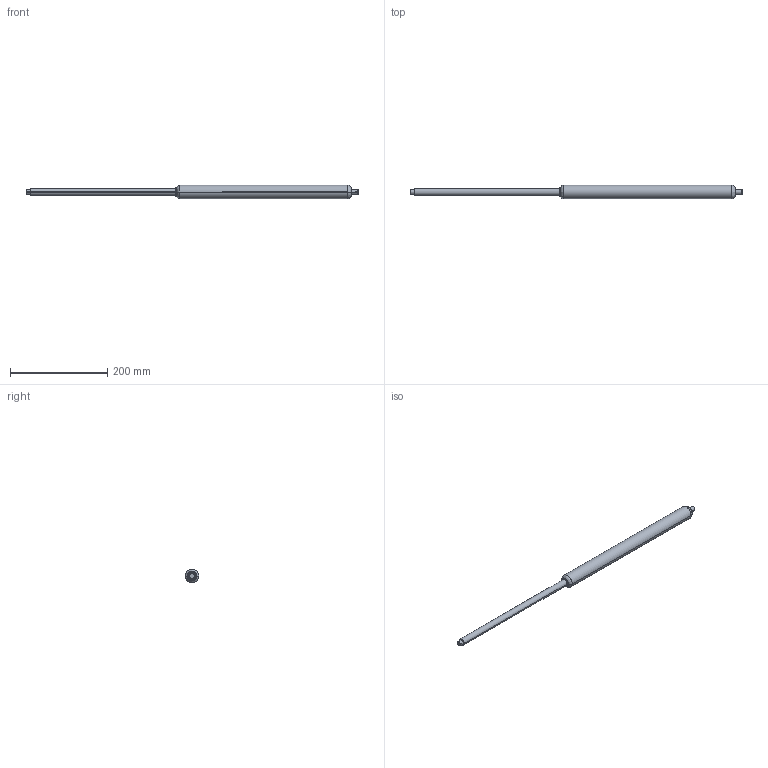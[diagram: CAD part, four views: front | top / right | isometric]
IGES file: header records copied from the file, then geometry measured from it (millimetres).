
Start section: SolidWorks IGES file using analytic representation for surfaces
Global section: file name: Z:\7-3D図面\01.図面\01.L\外形図\Ｇ／Ｓ\20170710(最新)\カタログ用\IGES\FGS-28-300-BB.IGS; native system: SolidWorks 2016; preprocessor: SolidWorks 2016; author: flgijutsu; date: 170710.171706; units: millimetre
Bounding box: 684 x 28 x 28 mm (x, y, z)
Surface area: 46690 mm2 (no closed solid volume)
Topology: 0 solids, 0 shells, 31 faces, 360 edges, 360 vertices
Faces by surface type: revolution 22, bspline 9
